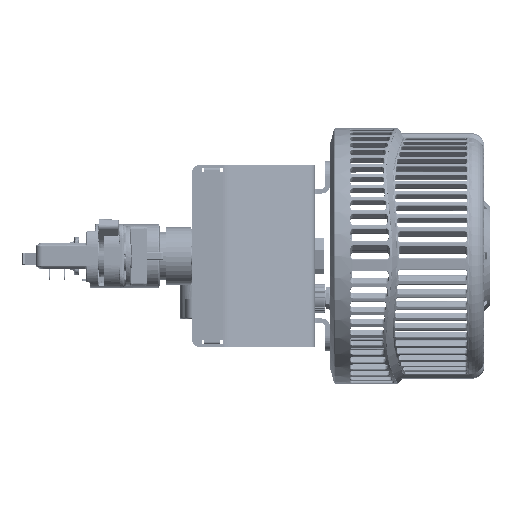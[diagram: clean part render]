
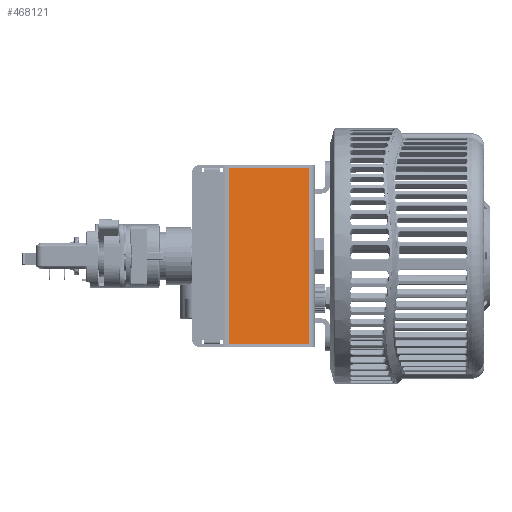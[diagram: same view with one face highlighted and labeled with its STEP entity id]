
A CAD part, left-side view. The second image highlights one B-rep face of the part: STEP entity #468121.
In plain terms, the highlighted planar face has unit normal (-0.94, -0.342, 0).
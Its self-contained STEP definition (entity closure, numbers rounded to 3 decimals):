
#15250 = CARTESIAN_POINT ( 'NONE',  ( -65.209, -1.528, -46. ) ) ;
#16769 = EDGE_CURVE ( 'NONE', #474884, #276614, #49361, .T. ) ;
#26044 = DIRECTION ( 'NONE',  ( -0.342, 0.94, 0. ) ) ;
#27643 = AXIS2_PLACEMENT_3D ( 'NONE', #106861, #78055, #26044 ) ;
#37622 = LINE ( 'NONE', #277401, #492180 ) ;
#49361 = LINE ( 'NONE', #445813, #363161 ) ;
#61591 = VECTOR ( 'NONE', #343616, 1000. ) ;
#78055 = DIRECTION ( 'NONE',  ( 0.94, 0.342, 0. ) ) ;
#79109 = CARTESIAN_POINT ( 'NONE',  ( -65.209, -1.528, 46. ) ) ;
#106861 = CARTESIAN_POINT ( 'NONE',  ( -65.209, -1.528, 46. ) ) ;
#112046 = FACE_OUTER_BOUND ( 'NONE', #372231, .T. ) ;
#133617 = CARTESIAN_POINT ( 'NONE',  ( -65.209, -1.528, 46. ) ) ;
#138694 = ORIENTED_EDGE ( 'NONE', *, *, #283950, .T. ) ;
#157370 = LINE ( 'NONE', #79109, #285820 ) ;
#216195 = ORIENTED_EDGE ( 'NONE', *, *, #257818, .T. ) ;
#229344 = EDGE_CURVE ( 'NONE', #342018, #474884, #157370, .T. ) ;
#247510 = DIRECTION ( 'NONE',  ( 0., 0., -1. ) ) ;
#250615 = CARTESIAN_POINT ( 'NONE',  ( -80.487, 40.448, 46. ) ) ;
#257818 = EDGE_CURVE ( 'NONE', #342018, #330839, #37622, .T. ) ;
#276614 = VERTEX_POINT ( 'NONE', #456177 ) ;
#277401 = CARTESIAN_POINT ( 'NONE',  ( -80.487, 40.448, 46. ) ) ;
#283950 = EDGE_CURVE ( 'NONE', #330839, #276614, #296693, .T. ) ;
#285820 = VECTOR ( 'NONE', #399898, 1000. ) ;
#287827 = CARTESIAN_POINT ( 'NONE',  ( -80.487, 40.448, -46. ) ) ;
#296693 = LINE ( 'NONE', #15250, #61591 ) ;
#297112 = ORIENTED_EDGE ( 'NONE', *, *, #16769, .F. ) ;
#330839 = VERTEX_POINT ( 'NONE', #287827 ) ;
#342018 = VERTEX_POINT ( 'NONE', #250615 ) ;
#343616 = DIRECTION ( 'NONE',  ( 0.342, -0.94, 0. ) ) ;
#363161 = VECTOR ( 'NONE', #247510, 1000. ) ;
#372231 = EDGE_LOOP ( 'NONE', ( #138694, #297112, #424744, #216195 ) ) ;
#391086 = PLANE ( 'NONE',  #27643 ) ;
#397559 = DIRECTION ( 'NONE',  ( 0., 0., -1. ) ) ;
#399898 = DIRECTION ( 'NONE',  ( 0.342, -0.94, 0. ) ) ;
#424744 = ORIENTED_EDGE ( 'NONE', *, *, #229344, .F. ) ;
#445813 = CARTESIAN_POINT ( 'NONE',  ( -65.209, -1.528, 46. ) ) ;
#456177 = CARTESIAN_POINT ( 'NONE',  ( -65.209, -1.528, -46. ) ) ;
#468121 = ADVANCED_FACE ( 'NONE', ( #112046 ), #391086, .F. ) ;
#474884 = VERTEX_POINT ( 'NONE', #133617 ) ;
#492180 = VECTOR ( 'NONE', #397559, 1000. ) ;
